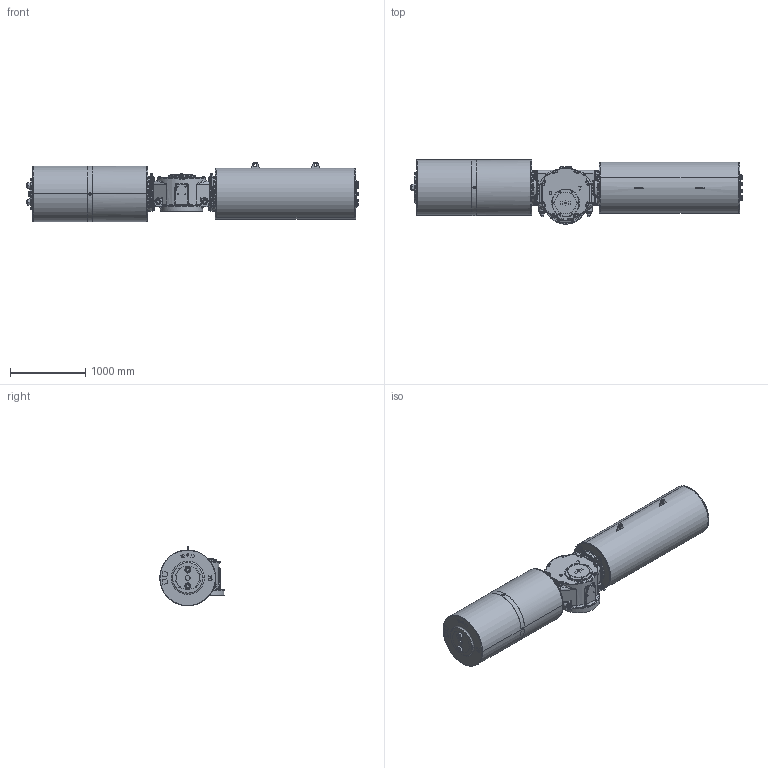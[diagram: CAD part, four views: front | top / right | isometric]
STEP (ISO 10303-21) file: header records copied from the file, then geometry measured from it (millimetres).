
FILE_DESCRIPTION (( 'STEP AP203' ), '1' );
FILE_NAME ('VTS7-700D-SR-FC.STEP', '2023-01-01T10:06:06', ( '' ), ( '' ), 'SwSTEP 2.0', 'SolidWorks 2020', '' );
FILE_SCHEMA (( 'CONFIG_CONTROL_DESIGN' ));
Length unit declared in the file: millimetre
Products named in the file (1): VTS7-700D-SR-FC
Bounding box: 4406.22 x 852.5 x 789.5 mm (x, y, z)
Volume: 1526369321.4 mm3; surface area: 13149811 mm2
Topology: 54 solids, 88 shells, 3857 faces, 9326 edges, 5644 vertices
Faces by surface type: cylinder 1395, plane 1160, cone 819, bspline 358, sphere 68, torus 57
Entity records: 140452 total; most frequent: CARTESIAN_POINT 53089, DIRECTION 18578, ORIENTED_EDGE 18188, EDGE_CURVE 9094, AXIS2_PLACEMENT_3D 7566, VERTEX_POINT 5624, EDGE_LOOP 4198, CIRCLE 4066
